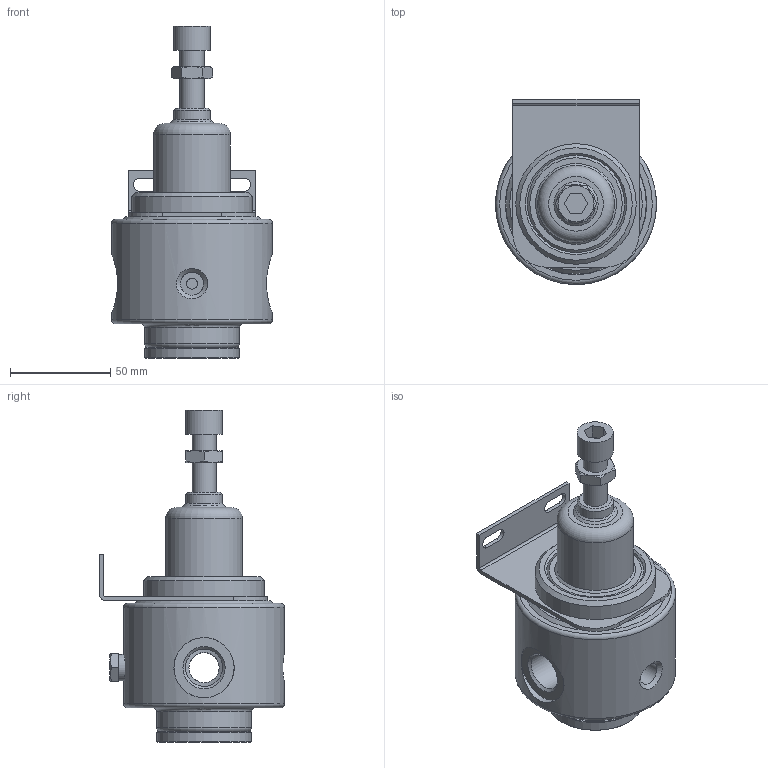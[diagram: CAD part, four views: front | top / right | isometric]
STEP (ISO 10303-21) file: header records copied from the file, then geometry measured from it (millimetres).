
FILE_DESCRIPTION((''),'2;1');
FILE_NAME('U:\AirCom-Produktdokumentation\Druckregler\R3000\Zeichnungen\CAD-Aircom\3D\B-R3000-04xx_01.stp','2016-02-10T09:26:36',('Frank Schroers'),(''),'Autodesk Inventor 2008','Autodesk Inventor 2008','');
FILE_SCHEMA(('AUTOMOTIVE_DESIGN { 1 0 10303 214 1 1 1 1 }'));
Length unit declared in the file: millimetre
Products named in the file (16): B-R3000-04; P20254; P34123; C43014; P43057; UNI EN 24035 M12; C51003; Welds_1; Solido1C; Solido1D; P21029; P21028; P38019; P34014030304; P36061; P35018
Assembly tree (15 placements, depth 4):
  B-R3000-04
    P20254
    P34123
    C43014
      P43057
      UNI EN 24035 M12
    C51003
      Welds_1
        Solido1C
        Solido1D
      P21029
      P21028
      P38019
    P34014030304
    P36061
    P35018
Bounding box: 80 x 92 x 165.3 mm (x, y, z)
Volume: 235832 mm3; surface area: 86799 mm2
Topology: 12 solids, 12 shells, 199 faces, 414 edges, 265 vertices
Faces by surface type: plane 81, cylinder 64, cone 37, torus 12, bspline 4, sphere 1
Full cylindrical faces by diameter (mm): 4.2 x1, 5.5 x2, 10.106 x2, 11 x1, 11.4 x1, 11.445 x2, 12 x1, 13.157 x1, 14 x1, 14.9 x1, 15 x2, 18 x3, 18.631 x2, 19.5 x1, 26 x1, 30 x2, 33 x1, 34 x1, 35.2 x1, 36 x1, 36.5 x1, 38 x1, 38.2 x2, 38.376 x1, 38.5 x1, 40 x1, 40.5 x1, 44.1 x1, 47 x2, 48.376 x1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
Entity records: 6474 total; most frequent: CARTESIAN_POINT 2187, DIRECTION 870, ORIENTED_EDGE 598, AXIS2_PLACEMENT_3D 394, EDGE_LOOP 349, EDGE_CURVE 299, VERTEX_POINT 242, FACE_OUTER_BOUND 199
